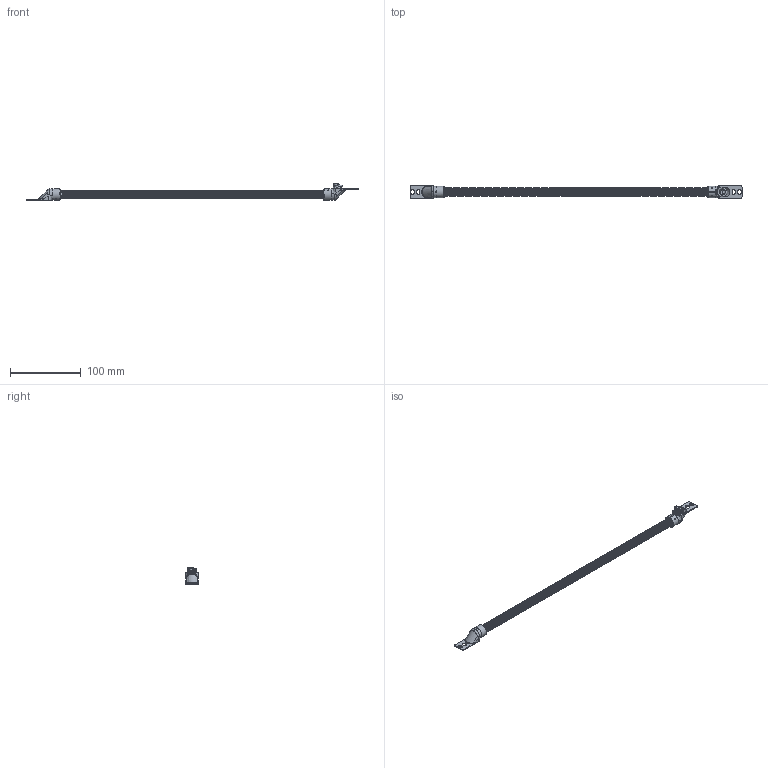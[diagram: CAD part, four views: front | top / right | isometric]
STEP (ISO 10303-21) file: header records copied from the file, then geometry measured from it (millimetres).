
FILE_DESCRIPTION((''),'2;1');
FILE_NAME('S:\Projekte\00 00 Datenarchiv\00.50- Kabelübergänge\M 11 93.stp','2011-08-17T10:32:53',('jsuarez'),(''),'Autodesk Inventor 2012','Autodesk Inventor 2012','');
FILE_SCHEMA(('AUTOMOTIVE_DESIGN { 1 0 10303 214 1 1 1 1 }'));
Length unit declared in the file: millimetre
Products named in the file (1): M 11 93
Bounding box: 468 x 17 x 23.35 mm (x, y, z)
Volume: 22891.9 mm3; surface area: 51897 mm2
Topology: 1 solids, 1 shells, 183 faces, 569 edges, 350 vertices
Faces by surface type: bspline 76, plane 45, cylinder 39, cone 10, sphere 6, revolution 5, torus 2
Full cylindrical faces by diameter (mm): 2 x2
Entity records: 36623 total; most frequent: CARTESIAN_POINT 32153, ORIENTED_EDGE 1096, DIRECTION 554, EDGE_CURVE 548, VERTEX_POINT 336, B_SPLINE_CURVE_WITH_KNOTS 313, EDGE_LOOP 230, AXIS2_PLACEMENT_3D 213
